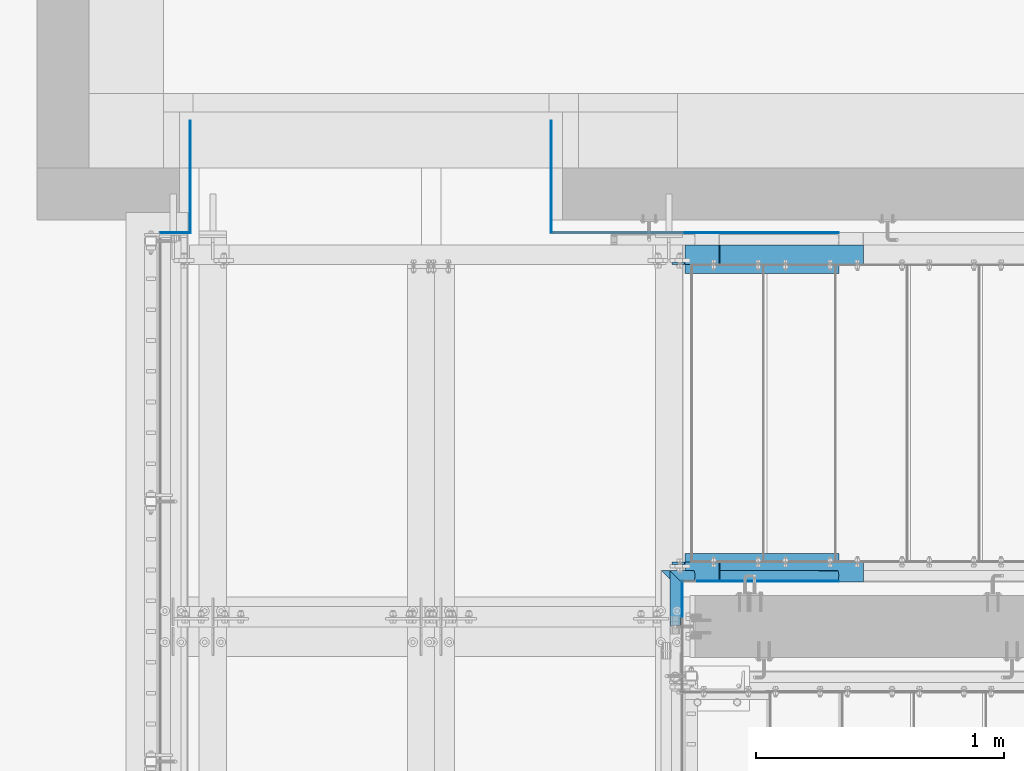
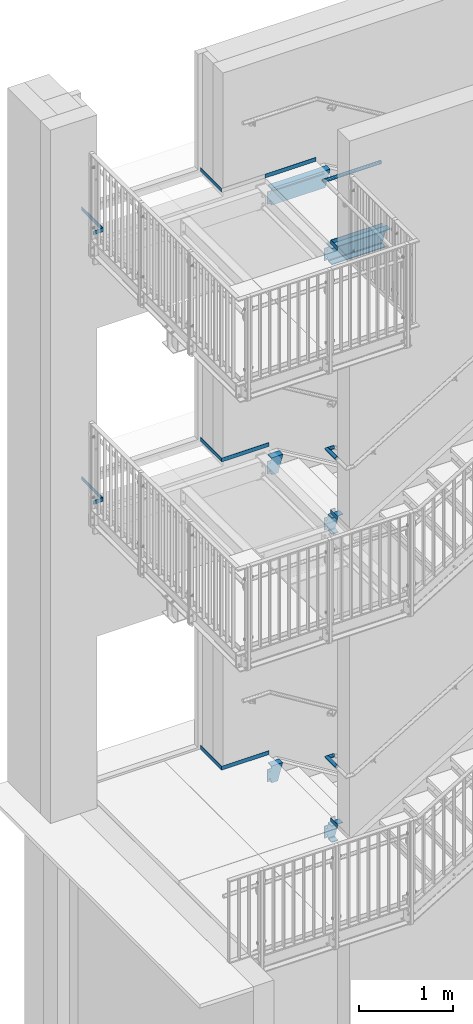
# One storey, part 42 of 410: 27 beams, 24 openings.
"""IFC2X3 building model written with IfcOpenShell, lengths in millimetres."""

from ifc_helpers import new_model, entity, si_unit, converted_unit, point, frame, frame_2d, origin, origin_with_axes, origin_2d, origin_2d_with_axis, place, context, project, spatial, circle_curve, line_curve, trimmed, segment, composite_curve, rectangle, circle, hollow_circle, u_section, outline, extrude, clip, halfspace, material, element, save


model = new_model("IFC2X3")

# Units and contexts
model_context = context("Model", 3, precision=1e-09, world=origin_with_axes())
ifc_project = project(units=[si_unit("LENGTHUNIT", "METRE", prefix="MILLI"), si_unit("AREAUNIT", "SQUARE_METRE"), si_unit("VOLUMEUNIT", "CUBIC_METRE"), converted_unit("PLANEANGLEUNIT", "DEGREE", entity("IfcPlaneAngleMeasure", 0.01745329), si_unit("PLANEANGLEUNIT", "RADIAN"), dimensions=[0, 0, 0, 0, 0, 0, 0])], contexts=[model_context])

# Site, building, storey
site_placement = place(None, origin_with_axes())
site = spatial("IfcSite", under=ifc_project, at=site_placement, Name="mKR Teilneubau & Sanierung BA1 - Ostfildern", CompositionType="ELEMENT")
building_placement = place(site_placement, origin_with_axes())
building = spatial("IfcBuilding", under=site, at=building_placement, Name="Struktur 1", CompositionType="ELEMENT")
storey_placement = place(building_placement, origin_with_axes())
storey = spatial("IfcBuildingStorey", under=building, at=storey_placement, Name="Default Storey", CompositionType="ELEMENT", Elevation=0.0)

# Beam, openings
ifc_material = material(Name="S235JR")
beam_1_placement = place(None, frame((-1371.689791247, 18461.399999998, -170.0), z_axis=(-1.0, 0.0, 0.0), x_axis=(0.0, 1.0, 0.0)))
beam_1 = element("IfcBeam", 1, at=beam_1_placement, inside=storey, material=ifc_material, Name="-", ObjectType="-", context=model_context, shape_type="Clipping", body=[
    clip(clip(extrude(u_section(Depth=220.0, FlangeWidth=80.0, WebThickness=9.0, FlangeThickness=12.5, FilletRadius=12.5, EdgeRadius=6.0, FlangeSlope=4.574, at=frame_2d((18.6, 0.0))), origin(), (0.0, 0.0, 1.0), 652.405739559), halfspace(frame((-18461.399999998, -170.0, 425.357740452), z_axis=(0.0, 0.0, -1.0), x_axis=(1.0, 0.0, 0.0)), True)), halfspace(frame((-18461.399999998, -587.407461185, 100.651187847), z_axis=(0.0, -0.272750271, 0.962084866), x_axis=(-1.0, 0.0, 0.0)), True)),
])
opening_1_placement = place(beam_1_placement, frame((1518.6, -80.0, 426.158740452), z_axis=(1.0, 0.0, 0.0), x_axis=(0.0, -1.0, 0.0)))
element("IfcOpeningElement", 2, at=opening_1_placement, cuts=beam_1, ObjectType="Opening", context=model_context, shape_type="SweptSolid", body=[
    extrude(outline(composite_curve([segment(trimmed(line_curve((0.0, 0.0), (1.0, 0.0), 30.8), [point((0.0, 0.0))], [point((30.8, 0.0))], True, "CARTESIAN"), True, "CONTINUOUS"), segment(trimmed(line_curve((30.8, 0.0), (0.0, 1.0), 52.85), [point((30.8, 0.0))], [point((30.8, 52.85))], True, "CARTESIAN"), True, "CONTINUOUS"), segment(trimmed(line_curve((30.8, 52.85), (-1.0, 0.0), 25.8), [point((30.8, 52.85))], [point((5.0, 52.85))], True, "CARTESIAN"), True, "CONTINUOUS"), segment(trimmed(circle_curve(frame_2d((5.0, 47.85), x_axis=(1.0, 0.0)), 5.0), [point((5.0, 52.85))], [point((0.0, 47.85))], True, "CARTESIAN"), True, "CONTINUOUS"), segment(trimmed(line_curve((0.0, 47.85), (0.0, -1.0), 47.85), [point((0.0, 47.85))], [point((0.0, 0.0))], True, "CARTESIAN"), True, "CONTINUOUS")], self_intersect=False)), origin(), (0.0, 0.0, -1.0), 3000.0),
])
opening_2_placement = place(beam_1_placement, frame((-1481.4, 80.0, 426.158740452), z_axis=(-1.0, 0.0, 0.0), x_axis=(0.0, 1.0, 0.0)))
element("IfcOpeningElement", 3, at=opening_2_placement, cuts=beam_1, ObjectType="Opening", context=model_context, shape_type="SweptSolid", body=[
    extrude(outline(composite_curve([segment(trimmed(line_curve((0.0, 0.0), (1.0, 0.0), 30.8), [point((0.0, 0.0))], [point((30.8, 0.0))], True, "CARTESIAN"), True, "CONTINUOUS"), segment(trimmed(line_curve((30.8, 0.0), (0.0, 1.0), 52.85), [point((30.8, 0.0))], [point((30.8, 52.85))], True, "CARTESIAN"), True, "CONTINUOUS"), segment(trimmed(line_curve((30.8, 52.85), (-1.0, 0.0), 25.8), [point((30.8, 52.85))], [point((5.0, 52.85))], True, "CARTESIAN"), True, "CONTINUOUS"), segment(trimmed(circle_curve(frame_2d((5.0, 47.85), x_axis=(1.0, 0.0)), 5.0), [point((5.0, 52.85))], [point((0.0, 47.85))], True, "CARTESIAN"), True, "CONTINUOUS"), segment(trimmed(line_curve((0.0, 47.85), (0.0, -1.0), 47.85), [point((0.0, 47.85))], [point((0.0, 0.0))], True, "CARTESIAN"), True, "CONTINUOUS")], self_intersect=False)), origin(), (0.0, 0.0, -1.0), 3000.0),
])
opening_3_placement = place(beam_1_placement, frame((-11.9, 50.0, 403.359740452), z_axis=(1.0, 0.0, 0.0), x_axis=(0.0, 1.0, 0.0)))
element("IfcOpeningElement", 4, at=opening_3_placement, cuts=beam_1, ObjectType="Opening", context=model_context, shape_type="SweptSolid", body=[
    extrude(circle(Radius=9.001, at=frame_2d((0.0, -9.001), x_axis=(1.0, 0.0))), origin(), (0.0, 0.0, -1.0), 10.0),
])
opening_4_placement = place(beam_1_placement, frame((-11.9, -50.0, 403.359740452), z_axis=(1.0, 0.0, 0.0), x_axis=(0.0, 1.0, 0.0)))
element("IfcOpeningElement", 5, at=opening_4_placement, cuts=beam_1, ObjectType="Opening", context=model_context, shape_type="SweptSolid", body=[
    extrude(circle(Radius=9.001, at=frame_2d((0.0, -9.001), x_axis=(1.0, 0.0))), origin(), (0.0, 0.0, -1.0), 10.0),
])

beam_2_placement = place(None, frame((-1369.3615898, 18461.399999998, 3830.0), z_axis=(-1.0, 0.0, 0.0), x_axis=(0.0, 1.0, 0.0)))
beam_2 = element("IfcBeam", 6, at=beam_2_placement, inside=storey, material=ifc_material, Name="-", ObjectType="-", context=model_context, shape_type="Clipping", body=[
    clip(clip(extrude(u_section(Depth=220.0, FlangeWidth=80.0, WebThickness=9.0, FlangeThickness=12.5, FilletRadius=12.5, EdgeRadius=6.0, FlangeSlope=4.574, at=frame_2d((18.6, 0.0))), origin(), (0.0, 0.0, 1.0), 654.733941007), halfspace(frame((-18461.399999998, 3830.0, 427.685941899), z_axis=(0.0, 0.0, -1.0), x_axis=(1.0, 0.0, 0.0)), True)), halfspace(frame((-18461.399999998, 3136.766015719, 1134.506152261), z_axis=(0.0, -0.266827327, 0.963744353), x_axis=(-1.0, 0.0, 0.0)), True)),
])
opening_5_placement = place(beam_2_placement, frame((1518.6, -80.0, 428.486941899), z_axis=(1.0, 0.0, 0.0), x_axis=(0.0, -1.0, 0.0)))
element("IfcOpeningElement", 7, at=opening_5_placement, cuts=beam_2, ObjectType="Opening", context=model_context, shape_type="SweptSolid", body=[
    extrude(outline(composite_curve([segment(trimmed(line_curve((0.0, 0.0), (1.0, 0.0), 30.8), [point((0.0, 0.0))], [point((30.8, 0.0))], True, "CARTESIAN"), True, "CONTINUOUS"), segment(trimmed(line_curve((30.8, 0.0), (0.0, 1.0), 52.85), [point((30.8, 0.0))], [point((30.8, 52.85))], True, "CARTESIAN"), True, "CONTINUOUS"), segment(trimmed(line_curve((30.8, 52.85), (-1.0, 0.0), 25.8), [point((30.8, 52.85))], [point((5.0, 52.85))], True, "CARTESIAN"), True, "CONTINUOUS"), segment(trimmed(circle_curve(frame_2d((5.0, 47.85), x_axis=(1.0, 0.0)), 5.0), [point((5.0, 52.85))], [point((0.0, 47.85))], True, "CARTESIAN"), True, "CONTINUOUS"), segment(trimmed(line_curve((0.0, 47.85), (0.0, -1.0), 47.85), [point((0.0, 47.85))], [point((0.0, 0.0))], True, "CARTESIAN"), True, "CONTINUOUS")], self_intersect=False)), origin(), (0.0, 0.0, -1.0), 3000.0),
])
opening_6_placement = place(beam_2_placement, frame((-1481.4, 80.0, 428.486941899), z_axis=(-1.0, 0.0, 0.0), x_axis=(0.0, 1.0, 0.0)))
element("IfcOpeningElement", 8, at=opening_6_placement, cuts=beam_2, ObjectType="Opening", context=model_context, shape_type="SweptSolid", body=[
    extrude(outline(composite_curve([segment(trimmed(line_curve((0.0, 0.0), (1.0, 0.0), 30.8), [point((0.0, 0.0))], [point((30.8, 0.0))], True, "CARTESIAN"), True, "CONTINUOUS"), segment(trimmed(line_curve((30.8, 0.0), (0.0, 1.0), 52.85), [point((30.8, 0.0))], [point((30.8, 52.85))], True, "CARTESIAN"), True, "CONTINUOUS"), segment(trimmed(line_curve((30.8, 52.85), (-1.0, 0.0), 25.8), [point((30.8, 52.85))], [point((5.0, 52.85))], True, "CARTESIAN"), True, "CONTINUOUS"), segment(trimmed(circle_curve(frame_2d((5.0, 47.85), x_axis=(1.0, 0.0)), 5.0), [point((5.0, 52.85))], [point((0.0, 47.85))], True, "CARTESIAN"), True, "CONTINUOUS"), segment(trimmed(line_curve((0.0, 47.85), (0.0, -1.0), 47.85), [point((0.0, 47.85))], [point((0.0, 0.0))], True, "CARTESIAN"), True, "CONTINUOUS")], self_intersect=False)), origin(), (0.0, 0.0, -1.0), 3000.0),
])
opening_7_placement = place(beam_2_placement, frame((-11.9, 50.0, 405.687941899), z_axis=(1.0, 0.0, 0.0), x_axis=(0.0, 1.0, 0.0)))
element("IfcOpeningElement", 9, at=opening_7_placement, cuts=beam_2, ObjectType="Opening", context=model_context, shape_type="SweptSolid", body=[
    extrude(circle(Radius=9.001, at=frame_2d((0.0, -9.001), x_axis=(1.0, 0.0))), origin(), (0.0, 0.0, -1.0), 10.0),
])
opening_8_placement = place(beam_2_placement, frame((-11.9, -50.0, 405.687941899), z_axis=(1.0, 0.0, 0.0), x_axis=(0.0, 1.0, 0.0)))
element("IfcOpeningElement", 10, at=opening_8_placement, cuts=beam_2, ObjectType="Opening", context=model_context, shape_type="SweptSolid", body=[
    extrude(circle(Radius=9.001, at=frame_2d((0.0, -9.001), x_axis=(1.0, 0.0))), origin(), (0.0, 0.0, -1.0), 10.0),
])

beam_3_placement = place(None, frame((-2024.095530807, 18461.399999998, 7330.0), z_axis=(1.0, 0.0, 0.0), x_axis=(0.0, 1.0, 0.0)))
beam_3 = element("IfcBeam", 11, at=beam_3_placement, inside=storey, material=ifc_material, Name="-", ObjectType="-", context=model_context, shape_type="Clipping", body=[
    clip(clip(extrude(u_section(Depth=220.0, FlangeWidth=80.0, WebThickness=9.0, FlangeThickness=12.5, FilletRadius=12.5, EdgeRadius=6.0, FlangeSlope=4.574, at=frame_2d((18.6, 0.0))), origin(), (0.0, 0.0, 1.0), 1234.202525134), halfspace(frame((-18461.399999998, -7330.0, 227.047999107), z_axis=(0.0, 0.0, 1.0), x_axis=(1.0, 0.0, 0.0)), True)), halfspace(frame((-18461.399999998, -6530.079416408, -849.725628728), z_axis=(0.0, 0.268153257, -0.963376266), x_axis=(-1.0, 0.0, 0.0)), True)),
])
opening_9_placement = place(beam_3_placement, frame((1518.6, 80.0, 226.246999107), z_axis=(1.0, 0.0, 0.0), x_axis=(0.0, 1.0, 0.0)))
element("IfcOpeningElement", 12, at=opening_9_placement, cuts=beam_3, ObjectType="Opening", context=model_context, shape_type="SweptSolid", body=[
    extrude(outline(composite_curve([segment(trimmed(line_curve((0.0, 0.0), (1.0, 0.0), 30.8), [point((0.0, 0.0))], [point((30.8, 0.0))], True, "CARTESIAN"), True, "CONTINUOUS"), segment(trimmed(line_curve((30.8, 0.0), (0.0, 1.0), 52.85), [point((30.8, 0.0))], [point((30.8, 52.85))], True, "CARTESIAN"), True, "CONTINUOUS"), segment(trimmed(line_curve((30.8, 52.85), (-1.0, 0.0), 25.8), [point((30.8, 52.85))], [point((5.0, 52.85))], True, "CARTESIAN"), True, "CONTINUOUS"), segment(trimmed(circle_curve(frame_2d((5.0, 47.85), x_axis=(1.0, 0.0)), 5.0), [point((5.0, 52.85))], [point((0.0, 47.85))], True, "CARTESIAN"), True, "CONTINUOUS"), segment(trimmed(line_curve((0.0, 47.85), (0.0, -1.0), 47.85), [point((0.0, 47.85))], [point((0.0, 0.0))], True, "CARTESIAN"), True, "CONTINUOUS")], self_intersect=False)), origin(), (0.0, 0.0, -1.0), 3000.0),
])
opening_10_placement = place(beam_3_placement, frame((-1481.4, -80.0, 226.246999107), z_axis=(-1.0, 0.0, 0.0), x_axis=(0.0, -1.0, 0.0)))
element("IfcOpeningElement", 13, at=opening_10_placement, cuts=beam_3, ObjectType="Opening", context=model_context, shape_type="SweptSolid", body=[
    extrude(outline(composite_curve([segment(trimmed(line_curve((0.0, 0.0), (1.0, 0.0), 30.8), [point((0.0, 0.0))], [point((30.8, 0.0))], True, "CARTESIAN"), True, "CONTINUOUS"), segment(trimmed(line_curve((30.8, 0.0), (0.0, 1.0), 52.85), [point((30.8, 0.0))], [point((30.8, 52.85))], True, "CARTESIAN"), True, "CONTINUOUS"), segment(trimmed(line_curve((30.8, 52.85), (-1.0, 0.0), 25.8), [point((30.8, 52.85))], [point((5.0, 52.85))], True, "CARTESIAN"), True, "CONTINUOUS"), segment(trimmed(circle_curve(frame_2d((5.0, 47.85), x_axis=(1.0, 0.0)), 5.0), [point((5.0, 52.85))], [point((0.0, 47.85))], True, "CARTESIAN"), True, "CONTINUOUS"), segment(trimmed(line_curve((0.0, 47.85), (0.0, -1.0), 47.85), [point((0.0, 47.85))], [point((0.0, 0.0))], True, "CARTESIAN"), True, "CONTINUOUS")], self_intersect=False)), origin(), (0.0, 0.0, -1.0), 3000.0),
])
opening_11_placement = place(beam_3_placement, frame((-11.9, -50.0, 249.045999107), z_axis=(1.0, 0.0, 0.0), x_axis=(0.0, 1.0, 0.0)))
element("IfcOpeningElement", 14, at=opening_11_placement, cuts=beam_3, ObjectType="Opening", context=model_context, shape_type="SweptSolid", body=[
    extrude(circle(Radius=9.001, at=frame_2d((0.0, 9.001), x_axis=(1.0, 0.0))), origin(), (0.0, 0.0, -1.0), 10.0),
])
opening_12_placement = place(beam_3_placement, frame((-11.9, 50.0, 249.045999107), z_axis=(1.0, 0.0, 0.0), x_axis=(0.0, 1.0, 0.0)))
element("IfcOpeningElement", 15, at=opening_12_placement, cuts=beam_3, ObjectType="Opening", context=model_context, shape_type="SweptSolid", body=[
    extrude(circle(Radius=9.001, at=frame_2d((0.0, 9.001), x_axis=(1.0, 0.0))), origin(), (0.0, 0.0, -1.0), 10.0),
])

beam_4_placement = place(None, frame((-1371.689791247, 17218.599999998, -170.0), z_axis=(1.0, 0.0, 0.0), x_axis=(0.0, -1.0, 0.0)))
beam_4 = element("IfcBeam", 16, at=beam_4_placement, inside=storey, material=ifc_material, Name="-", ObjectType="-", context=model_context, shape_type="Clipping", body=[
    clip(clip(extrude(u_section(Depth=220.0, FlangeWidth=80.0, WebThickness=9.0, FlangeThickness=12.5, FilletRadius=12.5, EdgeRadius=6.0, FlangeSlope=4.574, at=frame_2d((18.6, 0.0))), origin(), (0.0, 0.0, -1.0), 652.405739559), halfspace(frame((17218.599999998, -170.0, -425.357740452), z_axis=(0.0, 0.0, 1.0), x_axis=(-1.0, 0.0, 0.0)), True)), halfspace(frame((17218.599999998, -587.407461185, -100.651187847), z_axis=(0.0, -0.272750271, -0.962084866), x_axis=(1.0, 0.0, 0.0)), True)),
])
opening_13_placement = place(beam_4_placement, frame((1518.6, -110.0, -383.308740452), z_axis=(-1.0, 0.0, 0.0), x_axis=(0.0, 0.0, -1.0)))
element("IfcOpeningElement", 17, at=opening_13_placement, cuts=beam_4, ObjectType="Opening", context=model_context, shape_type="SweptSolid", body=[
    extrude(outline(composite_curve([segment(trimmed(line_curve((42.85, -30.0), (0.0, 1.0), 30.8), [point((42.85, -30.0))], [point((42.85, 0.8))], True, "CARTESIAN"), True, "CONTINUOUS"), segment(trimmed(line_curve((42.85, 0.8), (-1.0, 0.0), 52.85), [point((42.85, 0.8))], [point((-10.0, 0.8))], True, "CARTESIAN"), True, "CONTINUOUS"), segment(trimmed(line_curve((-10.0, 0.8), (0.0, -1.0), 25.8), [point((-10.0, 0.8))], [point((-10.0, -25.0))], True, "CARTESIAN"), True, "CONTINUOUS"), segment(trimmed(circle_curve(frame_2d((-5.0, -25.0), x_axis=(1.0, 0.0)), 5.0), [point((-10.0, -25.0))], [point((-5.0, -30.0))], True, "CARTESIAN"), True, "CONTINUOUS"), segment(trimmed(line_curve((-5.0, -30.0), (1.0, 0.0), 47.85), [point((-5.0, -30.0))], [point((42.85, -30.0))], True, "CARTESIAN"), True, "CONTINUOUS")], self_intersect=False)), origin(), (0.0, 0.0, 1.0), 3000.0),
])
opening_14_placement = place(beam_4_placement, frame((-1481.4, -110.0, -383.308740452), z_axis=(1.0, 0.0, 0.0), x_axis=(0.0, 0.0, 1.0)))
element("IfcOpeningElement", 18, at=opening_14_placement, cuts=beam_4, ObjectType="Opening", context=model_context, shape_type="SweptSolid", body=[
    extrude(outline(composite_curve([segment(trimmed(line_curve((-42.85, -190.0), (0.0, -1.0), 30.8), [point((-42.85, -190.0))], [point((-42.85, -220.8))], True, "CARTESIAN"), True, "CONTINUOUS"), segment(trimmed(line_curve((-42.85, -220.8), (1.0, 0.0), 52.85), [point((-42.85, -220.8))], [point((10.0, -220.8))], True, "CARTESIAN"), True, "CONTINUOUS"), segment(trimmed(line_curve((10.0, -220.8), (0.0, 1.0), 25.8), [point((10.0, -220.8))], [point((10.0, -195.0))], True, "CARTESIAN"), True, "CONTINUOUS"), segment(trimmed(circle_curve(frame_2d((5.0, -195.0), x_axis=(1.0, 0.0)), 5.0), [point((10.0, -195.0))], [point((5.0, -190.0))], True, "CARTESIAN"), True, "CONTINUOUS"), segment(trimmed(line_curve((5.0, -190.0), (-1.0, 0.0), 47.85), [point((5.0, -190.0))], [point((-42.85, -190.0))], True, "CARTESIAN"), True, "CONTINUOUS")], self_intersect=False)), origin(), (0.0, 0.0, 1.0), 3000.0),
])
opening_15_placement = place(beam_4_placement, frame((-11.9, -50.0, -394.358740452), z_axis=(-1.0, 0.0, 0.0), x_axis=(0.0, 0.0, 1.0)))
element("IfcOpeningElement", 19, at=opening_15_placement, cuts=beam_4, ObjectType="Opening", context=model_context, shape_type="SweptSolid", body=[
    extrude(circle(Radius=9.001, at=frame_2d((0.0, 100.0), x_axis=(1.0, 0.0))), origin(), (0.0, 0.0, 1.0), 10.0),
])
opening_16_placement = place(beam_4_placement, frame((-11.9, -50.0, -394.358740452), z_axis=(-1.0, 0.0, 0.0), x_axis=(0.0, 0.0, 1.0)))
element("IfcOpeningElement", 20, at=opening_16_placement, cuts=beam_4, ObjectType="Opening", context=model_context, shape_type="SweptSolid", body=[
    extrude(circle(Radius=9.001, at=origin_2d_with_axis()), origin(), (0.0, 0.0, 1.0), 10.0),
])

beam_5_placement = place(None, frame((-1369.3615898, 17218.599999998, 3830.0), z_axis=(1.0, 0.0, 0.0), x_axis=(0.0, -1.0, 0.0)))
beam_5 = element("IfcBeam", 21, at=beam_5_placement, inside=storey, material=ifc_material, Name="-", ObjectType="-", context=model_context, shape_type="Clipping", body=[
    clip(clip(extrude(u_section(Depth=220.0, FlangeWidth=80.0, WebThickness=9.0, FlangeThickness=12.5, FilletRadius=12.5, EdgeRadius=6.0, FlangeSlope=4.574, at=frame_2d((18.6, 0.0))), origin(), (0.0, 0.0, -1.0), 654.733941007), halfspace(frame((17218.599999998, 3830.0, -427.685941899), z_axis=(0.0, 0.0, 1.0), x_axis=(-1.0, 0.0, 0.0)), True)), halfspace(frame((17218.599999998, 3136.766015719, -1134.506152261), z_axis=(0.0, -0.266827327, -0.963744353), x_axis=(1.0, 0.0, 0.0)), True)),
])
opening_17_placement = place(beam_5_placement, frame((1518.6, -110.0, -385.636941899), z_axis=(-1.0, 0.0, 0.0), x_axis=(0.0, 0.0, -1.0)))
element("IfcOpeningElement", 22, at=opening_17_placement, cuts=beam_5, ObjectType="Opening", context=model_context, shape_type="SweptSolid", body=[
    extrude(outline(composite_curve([segment(trimmed(line_curve((42.85, -30.0), (0.0, 1.0), 30.8), [point((42.85, -30.0))], [point((42.85, 0.8))], True, "CARTESIAN"), True, "CONTINUOUS"), segment(trimmed(line_curve((42.85, 0.8), (-1.0, 0.0), 52.85), [point((42.85, 0.8))], [point((-10.0, 0.8))], True, "CARTESIAN"), True, "CONTINUOUS"), segment(trimmed(line_curve((-10.0, 0.8), (0.0, -1.0), 25.8), [point((-10.0, 0.8))], [point((-10.0, -25.0))], True, "CARTESIAN"), True, "CONTINUOUS"), segment(trimmed(circle_curve(frame_2d((-5.0, -25.0), x_axis=(1.0, 0.0)), 5.0), [point((-10.0, -25.0))], [point((-5.0, -30.0))], True, "CARTESIAN"), True, "CONTINUOUS"), segment(trimmed(line_curve((-5.0, -30.0), (1.0, 0.0), 47.85), [point((-5.0, -30.0))], [point((42.85, -30.0))], True, "CARTESIAN"), True, "CONTINUOUS")], self_intersect=False)), origin(), (0.0, 0.0, 1.0), 3000.0),
])
opening_18_placement = place(beam_5_placement, frame((-1481.4, -110.0, -385.636941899), z_axis=(1.0, 0.0, 0.0), x_axis=(0.0, 0.0, 1.0)))
element("IfcOpeningElement", 23, at=opening_18_placement, cuts=beam_5, ObjectType="Opening", context=model_context, shape_type="SweptSolid", body=[
    extrude(outline(composite_curve([segment(trimmed(line_curve((-42.85, -190.0), (0.0, -1.0), 30.8), [point((-42.85, -190.0))], [point((-42.85, -220.8))], True, "CARTESIAN"), True, "CONTINUOUS"), segment(trimmed(line_curve((-42.85, -220.8), (1.0, 0.0), 52.85), [point((-42.85, -220.8))], [point((10.0, -220.8))], True, "CARTESIAN"), True, "CONTINUOUS"), segment(trimmed(line_curve((10.0, -220.8), (0.0, 1.0), 25.8), [point((10.0, -220.8))], [point((10.0, -195.0))], True, "CARTESIAN"), True, "CONTINUOUS"), segment(trimmed(circle_curve(frame_2d((5.0, -195.0), x_axis=(1.0, 0.0)), 5.0), [point((10.0, -195.0))], [point((5.0, -190.0))], True, "CARTESIAN"), True, "CONTINUOUS"), segment(trimmed(line_curve((5.0, -190.0), (-1.0, 0.0), 47.85), [point((5.0, -190.0))], [point((-42.85, -190.0))], True, "CARTESIAN"), True, "CONTINUOUS")], self_intersect=False)), origin(), (0.0, 0.0, 1.0), 3000.0),
])
opening_19_placement = place(beam_5_placement, frame((-11.9, -50.0, -396.686941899), z_axis=(-1.0, 0.0, 0.0), x_axis=(0.0, 0.0, 1.0)))
element("IfcOpeningElement", 24, at=opening_19_placement, cuts=beam_5, ObjectType="Opening", context=model_context, shape_type="SweptSolid", body=[
    extrude(circle(Radius=9.001, at=frame_2d((0.0, 100.0), x_axis=(1.0, 0.0))), origin(), (0.0, 0.0, 1.0), 10.0),
])
opening_20_placement = place(beam_5_placement, frame((-11.9, -50.0, -396.686941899), z_axis=(-1.0, 0.0, 0.0), x_axis=(0.0, 0.0, 1.0)))
element("IfcOpeningElement", 25, at=opening_20_placement, cuts=beam_5, ObjectType="Opening", context=model_context, shape_type="SweptSolid", body=[
    extrude(circle(Radius=9.001, at=origin_2d_with_axis()), origin(), (0.0, 0.0, 1.0), 10.0),
])

beam_6_placement = place(None, frame((-2024.095530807, 17218.599999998, 7330.0), z_axis=(-1.0, 0.0, 0.0), x_axis=(0.0, -1.0, 0.0)))
beam_6 = element("IfcBeam", 26, at=beam_6_placement, inside=storey, material=ifc_material, Name="-", ObjectType="-", context=model_context, shape_type="Clipping", body=[
    clip(clip(extrude(u_section(Depth=220.0, FlangeWidth=80.0, WebThickness=9.0, FlangeThickness=12.5, FilletRadius=12.5, EdgeRadius=6.0, FlangeSlope=4.574, at=frame_2d((18.6, 0.0))), origin(), (0.0, 0.0, -1.0), 1234.202525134), halfspace(frame((17218.599999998, -7330.0, -227.047999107), z_axis=(0.0, 0.0, -1.0), x_axis=(-1.0, 0.0, 0.0)), True)), halfspace(frame((17218.599999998, -6530.079416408, 849.725628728), z_axis=(0.0, 0.268153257, 0.963376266), x_axis=(1.0, 0.0, 0.0)), True)),
])
opening_21_placement = place(beam_6_placement, frame((1518.6, 110.0, -269.096999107), z_axis=(-1.0, 0.0, 0.0), x_axis=(0.0, 0.0, 1.0)))
element("IfcOpeningElement", 27, at=opening_21_placement, cuts=beam_6, ObjectType="Opening", context=model_context, shape_type="SweptSolid", body=[
    extrude(outline(composite_curve([segment(trimmed(line_curve((42.85, -30.0), (0.0, 1.0), 30.8), [point((42.85, -30.0))], [point((42.85, 0.8))], True, "CARTESIAN"), True, "CONTINUOUS"), segment(trimmed(line_curve((42.85, 0.8), (-1.0, 0.0), 52.85), [point((42.85, 0.8))], [point((-10.0, 0.8))], True, "CARTESIAN"), True, "CONTINUOUS"), segment(trimmed(line_curve((-10.0, 0.8), (0.0, -1.0), 25.8), [point((-10.0, 0.8))], [point((-10.0, -25.0))], True, "CARTESIAN"), True, "CONTINUOUS"), segment(trimmed(circle_curve(frame_2d((-5.0, -25.0), x_axis=(1.0, 0.0)), 5.0), [point((-10.0, -25.0))], [point((-5.0, -30.0))], True, "CARTESIAN"), True, "CONTINUOUS"), segment(trimmed(line_curve((-5.0, -30.0), (1.0, 0.0), 47.85), [point((-5.0, -30.0))], [point((42.85, -30.0))], True, "CARTESIAN"), True, "CONTINUOUS")], self_intersect=False)), origin(), (0.0, 0.0, 1.0), 3000.0),
])
opening_22_placement = place(beam_6_placement, frame((-1481.4, 110.0, -269.096999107), z_axis=(1.0, 0.0, 0.0), x_axis=(0.0, 0.0, -1.0)))
element("IfcOpeningElement", 28, at=opening_22_placement, cuts=beam_6, ObjectType="Opening", context=model_context, shape_type="SweptSolid", body=[
    extrude(outline(composite_curve([segment(trimmed(line_curve((-42.85, -190.0), (0.0, -1.0), 30.8), [point((-42.85, -190.0))], [point((-42.85, -220.8))], True, "CARTESIAN"), True, "CONTINUOUS"), segment(trimmed(line_curve((-42.85, -220.8), (1.0, 0.0), 52.85), [point((-42.85, -220.8))], [point((10.0, -220.8))], True, "CARTESIAN"), True, "CONTINUOUS"), segment(trimmed(line_curve((10.0, -220.8), (0.0, 1.0), 25.8), [point((10.0, -220.8))], [point((10.0, -195.0))], True, "CARTESIAN"), True, "CONTINUOUS"), segment(trimmed(circle_curve(frame_2d((5.0, -195.0), x_axis=(1.0, 0.0)), 5.0), [point((10.0, -195.0))], [point((5.0, -190.0))], True, "CARTESIAN"), True, "CONTINUOUS"), segment(trimmed(line_curve((5.0, -190.0), (-1.0, 0.0), 47.85), [point((5.0, -190.0))], [point((-42.85, -190.0))], True, "CARTESIAN"), True, "CONTINUOUS")], self_intersect=False)), origin(), (0.0, 0.0, 1.0), 3000.0),
])
opening_23_placement = place(beam_6_placement, frame((-11.9, 50.0, -258.046999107), z_axis=(-1.0, 0.0, 0.0), x_axis=(0.0, 0.0, -1.0)))
element("IfcOpeningElement", 29, at=opening_23_placement, cuts=beam_6, ObjectType="Opening", context=model_context, shape_type="SweptSolid", body=[
    extrude(circle(Radius=9.001, at=frame_2d((0.0, 100.0), x_axis=(1.0, 0.0))), origin(), (0.0, 0.0, 1.0), 10.0),
])
opening_24_placement = place(beam_6_placement, frame((-11.9, 50.0, -258.046999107), z_axis=(-1.0, 0.0, 0.0), x_axis=(0.0, 0.0, -1.0)))
element("IfcOpeningElement", 30, at=opening_24_placement, cuts=beam_6, ObjectType="Opening", context=model_context, shape_type="SweptSolid", body=[
    extrude(circle(Radius=9.001, at=origin_2d_with_axis()), origin(), (0.0, 0.0, 1.0), 10.0),
])

# Beams
for number, where, z_axis, x_axis in (
    (31, (-1744.9985317, 17257.499999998, 7432.5), (-1.0, 0.0, 0.0), (0.0, 0.0, 1.0)),
    (32, (-1744.9985317, 18422.499999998, 7432.5), (-1.0, 0.0, 0.0), (0.0, 0.0, -1.0)),
):
    element("IfcBeam", number, at=place(None, frame(where, z_axis=z_axis, x_axis=x_axis)), inside=storey, material=ifc_material, Name="-", ObjectType="-", context=model_context, shape_type="SweptSolid", body=[
        extrude(rectangle(XDim=15.0, YDim=35.0, at=origin_2d()), origin(), (0.0, 0.0, -1.0), 619.9985317),
    ])
beam_7_placement = place(None, frame((-1125.0, 17161.999999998, 7525.0), z_axis=(1.0, 0.0, 0.0), x_axis=(0.0, 1.0, 0.0)))
element("IfcBeam", 33, at=beam_7_placement, inside=storey, material=ifc_material, Name="-", ObjectType="-", context=model_context, shape_type="SweptSolid", body=[
    extrude(rectangle(XDim=4.0, YDim=50.0, at=origin_2d()), origin(), (0.0, 0.0, -1.0), 627.9985317),
])
beam_8_placement = place(None, frame((-3860.9985317, 18567.998999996, 7525.0), z_axis=(-1.0, 0.0, 0.0), x_axis=(0.0, -1.0, 0.0)))
element("IfcBeam", 34, at=beam_8_placement, inside=storey, material=ifc_material, Name="-", ObjectType="-", context=model_context, shape_type="SweptSolid", body=[
    extrude(rectangle(XDim=4.0, YDim=50.0, at=origin_2d()), origin(), (0.0, 0.0, -1.0), 122.496031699),
])
for number, where, z_axis, x_axis in (
    (35, (-3740.5025, 18569.998999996, 7525.0), (0.0, -1.0, 0.0), (1.0, 0.0, 0.0)),
    (36, (-2284.497379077, 18569.998999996, 7525.0), (0.0, -1.0, 0.0), (1.0, 0.0, 0.0)),
):
    element("IfcBeam", number, at=place(None, frame(where, z_axis=z_axis, x_axis=x_axis)), inside=storey, material=ifc_material, Name="-", ObjectType="-", context=model_context, shape_type="SweptSolid", body=[
        extrude(rectangle(XDim=4.0, YDim=50.0, at=origin_2d()), origin(), (0.0, 0.0, -1.0), 450.001),
    ])
beam_9_placement = place(None, frame((-1705.0, 18567.998999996, 4025.0), z_axis=(1.0, 0.0, 0.0), x_axis=(0.0, 1.0, 0.0)))
element("IfcBeam", 37, at=beam_9_placement, inside=storey, material=ifc_material, Name="-", ObjectType="-", context=model_context, shape_type="SweptSolid", body=[
    extrude(rectangle(XDim=4.0, YDim=50.0, at=origin_2d()), origin(), (0.0, 0.0, -1.0), 581.4985317),
])
beam_10_placement = place(None, frame((-2284.4985317, 18569.998999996, 4025.0), z_axis=(0.0, -1.0, 0.0), x_axis=(1.0, 0.0, 0.0)))
element("IfcBeam", 38, at=beam_10_placement, inside=storey, material=ifc_material, Name="-", ObjectType="-", context=model_context, shape_type="SweptSolid", body=[
    extrude(rectangle(XDim=4.0, YDim=50.0, at=origin_2d()), origin(), (0.0, 0.0, -1.0), 450.001),
])
beam_11_placement = place(None, frame((-1705.0, 18567.998999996, 25.0), z_axis=(1.0, 0.0, 0.0), x_axis=(0.0, 1.0, 0.0)))
element("IfcBeam", 39, at=beam_11_placement, inside=storey, material=ifc_material, Name="-", ObjectType="-", context=model_context, shape_type="SweptSolid", body=[
    extrude(rectangle(XDim=4.0, YDim=50.0, at=origin_2d()), origin(), (0.0, 0.0, -1.0), 581.4985317),
])
beam_12_placement = place(None, frame((-2284.4985317, 18569.998999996, 25.0), z_axis=(0.0, -1.0, 0.0), x_axis=(1.0, 0.0, 0.0)))
element("IfcBeam", 40, at=beam_12_placement, inside=storey, material=ifc_material, Name="-", ObjectType="-", context=model_context, shape_type="SweptSolid", body=[
    extrude(rectangle(XDim=4.0, YDim=50.0, at=origin_2d()), origin(), (0.0, 0.0, -1.0), 450.001),
])
beam_13_placement = place(None, frame((-3740.4975317, 19019.999999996, 4025.0), z_axis=(0.0, 1.0, 0.0), x_axis=(-1.0, 0.0, 0.0)))
element("IfcBeam", 41, at=beam_13_placement, inside=storey, material=ifc_material, Name="-", ObjectType="-", context=model_context, shape_type="SweptSolid", body=[
    extrude(rectangle(XDim=4.0, YDim=50.0, at=origin_2d()), origin(), (0.0, 0.0, -1.0), 453.999531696),
])
beam_14_placement = place(None, frame((-3742.4975317, 18568.0004683, 4025.0), z_axis=(1.0, 0.0, 0.0), x_axis=(0.0, 1.0, 0.0)))
element("IfcBeam", 42, at=beam_14_placement, inside=storey, material=ifc_material, Name="-", ObjectType="-", context=model_context, shape_type="SweptSolid", body=[
    extrude(rectangle(XDim=4.0, YDim=50.0, at=origin_2d()), origin(), (0.0, 0.0, -1.0), 118.501),
])
beam_15_placement = place(None, frame((-1124.999998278, 18567.999999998, 7525.0), z_axis=(1.0, 8.61e-07, 0.0), x_axis=(-8.61e-07, 1.0, 0.0)))
element("IfcBeam", 43, at=beam_15_placement, inside=storey, material=ifc_material, Name="-", ObjectType="-", context=model_context, shape_type="SweptSolid", body=[
    extrude(rectangle(XDim=4.0, YDim=50.0, at=origin_2d()), origin(), (0.0, 0.0, -1.0), 627.9985317),
])
beam_16_placement = place(None, frame((-1756.9985317, 17163.999999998, 7525.0), z_axis=(0.0, 1.0, 0.0), x_axis=(-1.0, 0.0, 0.0)))
element("IfcBeam", 44, at=beam_16_placement, inside=storey, material=ifc_material, Name="-", ObjectType="-", context=model_context, shape_type="SweptSolid", body=[
    extrude(rectangle(XDim=4.0, YDim=50.0, at=origin_2d()), origin(), (0.0, 0.0, -1.0), 143.999999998),
])
for number, where, z_axis, x_axis in (
    (45, (-1756.9995317, 17020.0, 4025.0), (0.0, -1.0, 0.0), (1.0, 0.0, 0.0)),
    (46, (-1756.9995317, 17020.0, 25.0), (0.0, -1.0, 0.0), (1.0, 0.0, 0.0)),
):
    element("IfcBeam", number, at=place(None, frame(where, z_axis=z_axis, x_axis=x_axis)), inside=storey, material=ifc_material, Name="-", ObjectType="-", context=model_context, shape_type="SweptSolid", body=[
        extrude(rectangle(XDim=4.0, YDim=50.0, at=origin_2d()), origin(), (0.0, 0.0, -1.0), 140.000999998),
    ])
beam_17_placement = place(None, frame((-1862.4485317, 17185.0, 8328.799465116), z_axis=(-1.0, 0.0, 0.0), x_axis=(0.0, -1.0, 0.0)))
element("IfcBeam", 47, at=beam_17_placement, inside=storey, Name="-", ObjectType="-", context=model_context, shape_type="Clipping", body=[
    clip(clip(extrude(hollow_circle(Radius=21.2, WallThickness=3.2, at=origin_2d()), origin(), (0.0, 0.0, -1.0), 762.669552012), halfspace(frame((17185.0, -7437.758904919, 1338.733271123), z_axis=(0.0, 0.268153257, 0.963376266), x_axis=(1.0, 0.0, 0.0)), True)), halfspace(frame((9502.523558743, -8328.799465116, -9544.924972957), z_axis=(-0.707106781, 0.0, -0.707106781), x_axis=(-0.707106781, 0.0, 0.707106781)), True)),
])
beam_18_placement = place(None, frame((-1679.759460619, 17185.000022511, 4828.799478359), z_axis=(1.0, 0.0, 0.0), x_axis=(0.0, 1.0, 0.0)))
element("IfcBeam", 48, at=beam_18_placement, inside=storey, Name="-", ObjectType="-", context=model_context, shape_type="Clipping", body=[
    clip(clip(extrude(hollow_circle(Radius=21.2, WallThickness=3.2, at=origin_2d()), origin(), (0.0, 0.0, -1.0), 147.640539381), halfspace(frame((-17185.000022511, -4045.048455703, -1151.043627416), z_axis=(0.0, 0.266827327, -0.963744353), x_axis=(-1.0, 0.0, 0.0)), True)), halfspace(frame((-9484.999304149, -4828.799478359, 9379.760178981), z_axis=(0.707106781, 0.0, 0.707106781), x_axis=(0.707106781, 0.0, -0.707106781)), True)),
])
beam_19_placement = place(None, frame((-1827.4, 17185.0, 828.799463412), z_axis=(-1.0, 0.0, 0.0), x_axis=(0.0, -1.0, 0.0)))
element("IfcBeam", 49, at=beam_19_placement, inside=storey, Name="-", ObjectType="-", context=model_context, shape_type="Clipping", body=[
    clip(clip(extrude(hollow_circle(Radius=21.2, WallThickness=3.2, at=origin_2d()), origin(), (0.0, 0.0, -1.0), 147.553559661), halfspace(frame((17185.0, -318.158466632, -26.191983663), z_axis=(0.0, 0.272750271, 0.962084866), x_axis=(1.0, 0.0, 0.0)), True)), halfspace(frame((9484.999292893, -828.799463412, -9527.400707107), z_axis=(-0.707106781, 0.0, -0.707106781), x_axis=(-0.707106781, 0.0, 0.707106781)), True)),
])
beam_20_placement = place(None, frame((-1785.0, 17227.400022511, 4828.799478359), z_axis=(0.0, 1.0, 0.0), x_axis=(-1.0, 0.0, 0.0)))
element("IfcBeam", 50, at=beam_20_placement, inside=storey, Name="-", ObjectType="-", context=model_context, shape_type="Clipping", body=[
    clip(extrude(hollow_circle(Radius=21.2, WallThickness=3.2, at=origin_2d()), origin(), (0.0, 0.0, -1.0), 242.400011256), halfspace(frame((-9484.999304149, -4828.799478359, -9527.400718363), z_axis=(0.707106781, 0.0, -0.707106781), x_axis=(-0.707106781, 0.0, -0.707106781)), True)),
])
beam_21_placement = place(None, frame((-1785.0, 17227.4, 828.799463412), z_axis=(0.0, 1.0, 0.0), x_axis=(-1.0, 0.0, 0.0)))
element("IfcBeam", 51, at=beam_21_placement, inside=storey, Name="-", ObjectType="-", context=model_context, shape_type="Clipping", body=[
    clip(extrude(hollow_circle(Radius=21.2, WallThickness=3.2, at=origin_2d()), origin(), (0.0, 0.0, -1.0), 242.400000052), halfspace(frame((-9484.999292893, -828.799463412, -9527.400707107), z_axis=(0.707106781, 0.0, -0.707106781), x_axis=(-0.707106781, 0.0, -0.707106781)), True)),
])

save(model, "model.ifc")
